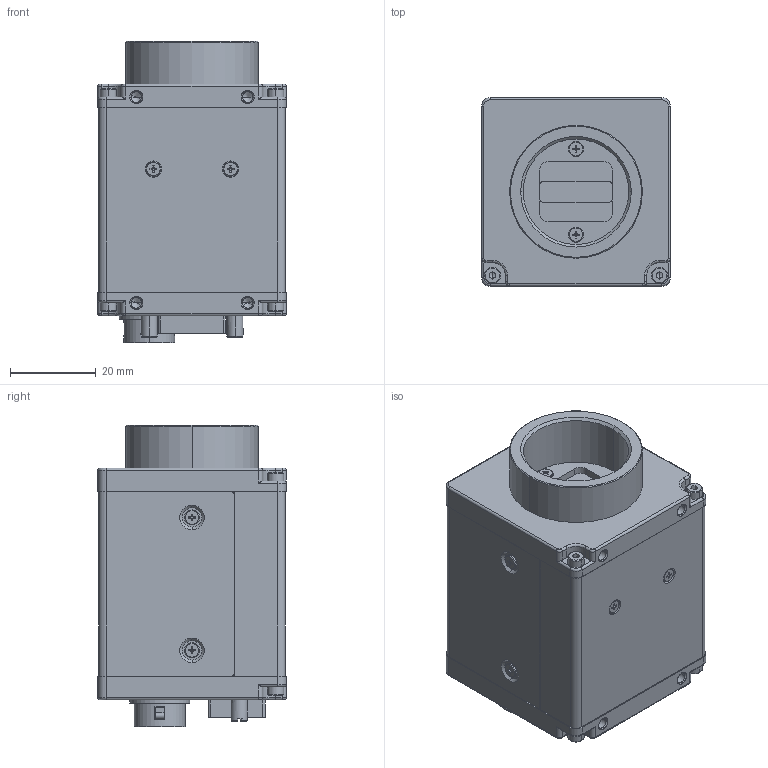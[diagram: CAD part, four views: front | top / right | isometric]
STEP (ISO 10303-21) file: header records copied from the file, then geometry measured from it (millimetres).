
FILE_DESCRIPTION((''),'2;1');
FILE_NAME('SW-2005M-5GE-NP_MOCK','2026-02-25T13:48:34',('aso'),(''),'CREO PARAMETRIC BY PTC INC, 2025323','CREO PARAMETRIC BY PTC INC, 2025323','');
FILE_SCHEMA(('AUTOMOTIVE_DESIGN { 1 0 10303 214 1 1 1 1 }'));
Length unit declared in the file: millimetre
Products named in the file (1): SW-2005M-5GE-NP_MOCK
Bounding box: 44 x 44 x 70.3 mm (x, y, z)
Volume: 103321.9 mm3; surface area: 18294 mm2
Topology: 2 solids, 12 shells, 845 faces, 2231 edges, 1417 vertices
Faces by surface type: plane 402, cylinder 272, cone 99, torus 40, sphere 24, bspline 8
Entity records: 33540 total; most frequent: CARTESIAN_POINT 6088, DIRECTION 4381, ORIENTED_EDGE 4324, EDGE_CURVE 2179, AXIS2_PLACEMENT_3D 1618, VERTEX_POINT 1417, PRESENTATION_STYLE_ASSIGNMENT 1199, STYLED_ITEM 1150
